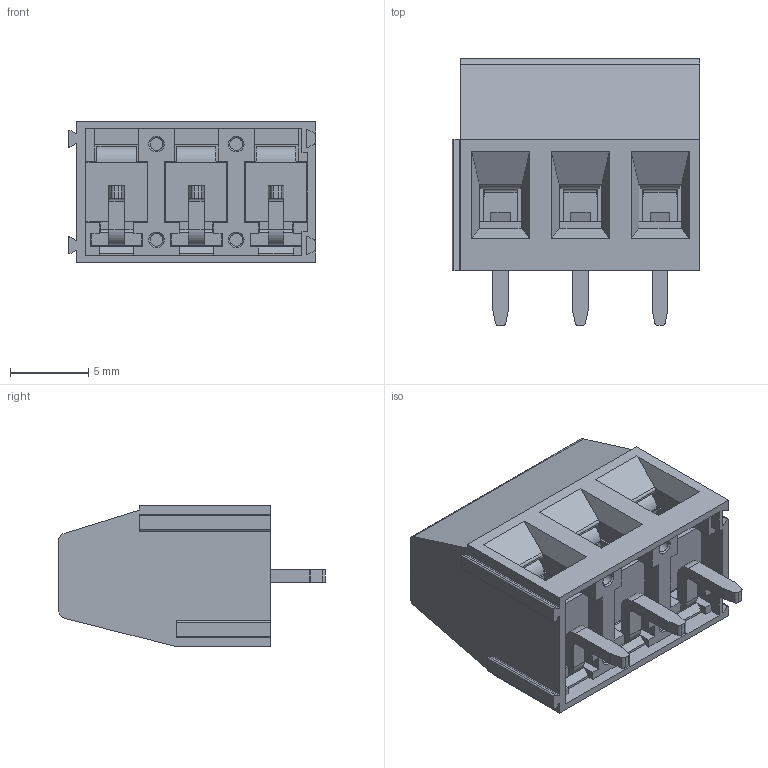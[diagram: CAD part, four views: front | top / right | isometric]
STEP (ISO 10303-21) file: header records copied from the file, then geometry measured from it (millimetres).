
FILE_DESCRIPTION((''),'2;1');
FILE_NAME('PRT0001','2021-04-22T',('guoxue_sz'),(''),'CREO PARAMETRIC BY PTC INC, 2016260','CREO PARAMETRIC BY PTC INC, 2016260','');
FILE_SCHEMA(('CONFIG_CONTROL_DESIGN'));
Length unit declared in the file: metre
Products named in the file (1): PRT0001
Bounding box: 15.79 x 17 x 9 mm (x, y, z)
Volume: 1129.9 mm3; surface area: 2664.6 mm2
Topology: 1 solids, 1 shells, 692 faces, 1987 edges, 1315 vertices
Faces by surface type: plane 408, cylinder 151, bspline 69, cone 46, torus 18
Entity records: 34333 total; most frequent: CARTESIAN_POINT 16402, ORIENTED_EDGE 3974, DIRECTION 3382, EDGE_CURVE 1987, VERTEX_POINT 1315, VECTOR 1298, LINE 1298, AXIS2_PLACEMENT_3D 1042
